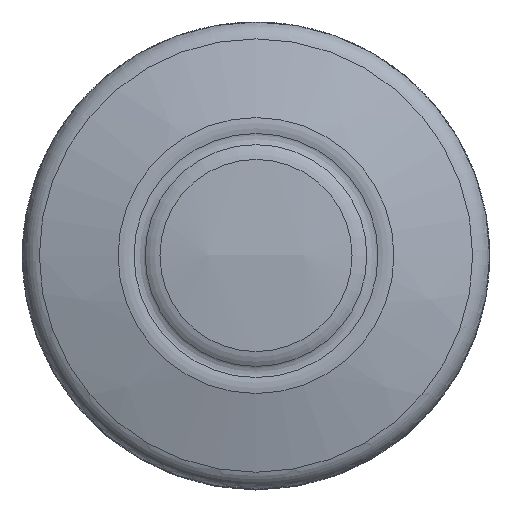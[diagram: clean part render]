
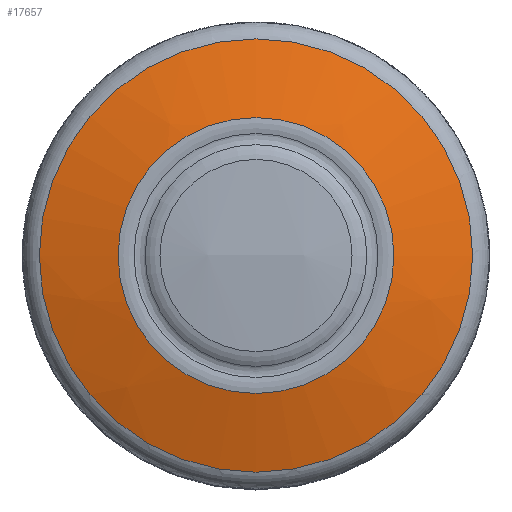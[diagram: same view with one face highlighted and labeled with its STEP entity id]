
A CAD part, top view. The second image highlights one B-rep face of the part: STEP entity #17657.
In plain terms, the highlighted spherical face has radius 40 mm.
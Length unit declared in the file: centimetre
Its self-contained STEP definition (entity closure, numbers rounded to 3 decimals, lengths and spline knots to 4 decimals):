
#15=SPHERICAL_SURFACE('',#19118,4.);
#266=FACE_BOUND('',#2752,.T.);
#1751=FACE_OUTER_BOUND('',#2751,.T.);
#2751=EDGE_LOOP('',(#13615));
#2752=EDGE_LOOP('',(#13616));
#3628=CIRCLE('',#19115,0.8268);
#3631=CIRCLE('',#19119,1.2987);
#7655=VERTEX_POINT('',#35736);
#7657=VERTEX_POINT('',#35742);
#9836=EDGE_CURVE('',#7655,#7655,#3628,.T.);
#9839=EDGE_CURVE('',#7657,#7657,#3631,.T.);
#13615=ORIENTED_EDGE('',*,*,#9839,.F.);
#13616=ORIENTED_EDGE('',*,*,#9836,.F.);
#17657=ADVANCED_FACE('',(#1751,#266),#15,.T.);
#19115=AXIS2_PLACEMENT_3D('',#35737,#22553,#22554);
#19118=AXIS2_PLACEMENT_3D('',#35741,#22559,#22560);
#19119=AXIS2_PLACEMENT_3D('',#35743,#22561,#22562);
#22553=DIRECTION('center_axis',(0.,0.,
1.));
#22554=DIRECTION('ref_axis',(-1.,0.,0.));
#22559=DIRECTION('center_axis',(0.,-1.,0.));
#22560=DIRECTION('ref_axis',(1.,0.,0.));
#22561=DIRECTION('center_axis',(0.,0.,
-1.));
#22562=DIRECTION('ref_axis',(1.,0.,0.));
#35736=CARTESIAN_POINT('',(0.,-0.8268,2.4636));
#35737=CARTESIAN_POINT('Origin',(0.,0.,
2.4636));
#35741=CARTESIAN_POINT('Origin',(0.,0.,
-1.45));
#35742=CARTESIAN_POINT('',(0.,-1.2987,2.3333));
#35743=CARTESIAN_POINT('Origin',(0.,0.,
2.3333));
